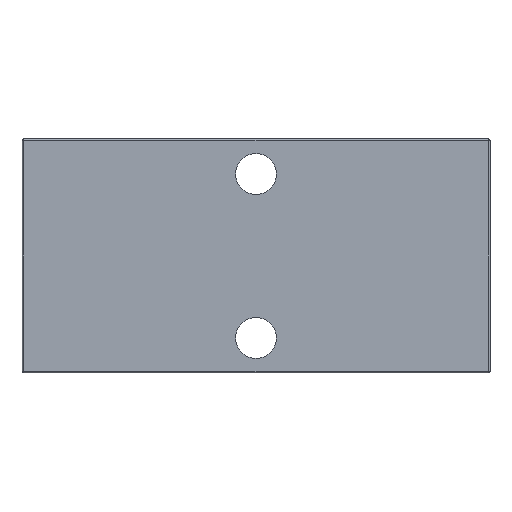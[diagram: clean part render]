
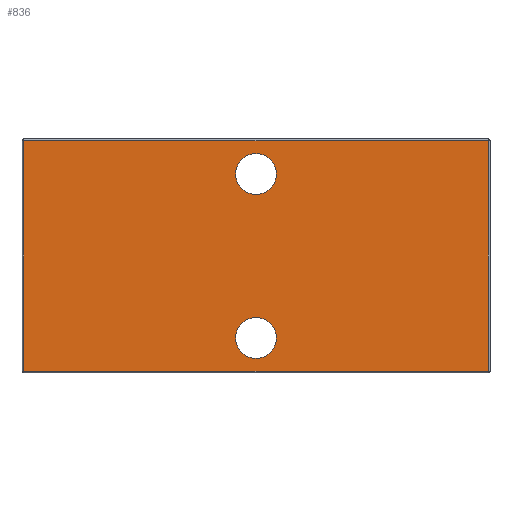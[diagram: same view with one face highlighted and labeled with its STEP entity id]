
A CAD part, front view. The second image highlights one B-rep face of the part: STEP entity #836.
In plain terms, the highlighted planar face has unit normal (0, -1, 0).
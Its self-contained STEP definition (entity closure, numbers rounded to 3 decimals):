
#43=FACE_BOUND('',#263,.T.);
#44=FACE_BOUND('',#264,.T.);
#54=PLANE('',#939);
#71=LINE('',#1366,#120);
#73=LINE('',#1369,#122);
#75=LINE('',#1372,#124);
#77=LINE('',#1375,#126);
#120=VECTOR('',#1099,10.);
#122=VECTOR('',#1103,10.);
#124=VECTOR('',#1107,10.);
#126=VECTOR('',#1111,10.);
#203=FACE_OUTER_BOUND('',#262,.T.);
#262=EDGE_LOOP('',(#657,#658,#659,#660));
#263=EDGE_LOOP('',(#661));
#264=EDGE_LOOP('',(#662));
#326=CIRCLE('',#940,2.625);
#327=CIRCLE('',#941,2.625);
#361=VERTEX_POINT('',#1287);
#364=VERTEX_POINT('',#1294);
#367=VERTEX_POINT('',#1301);
#373=VERTEX_POINT('',#1318);
#392=VERTEX_POINT('',#1399);
#393=VERTEX_POINT('',#1401);
#474=EDGE_CURVE('',#364,#373,#71,.T.);
#476=EDGE_CURVE('',#373,#367,#73,.T.);
#478=EDGE_CURVE('',#367,#361,#75,.T.);
#480=EDGE_CURVE('',#361,#364,#77,.T.);
#490=EDGE_CURVE('',#392,#392,#326,.T.);
#491=EDGE_CURVE('',#393,#393,#327,.T.);
#657=ORIENTED_EDGE('',*,*,#474,.F.);
#658=ORIENTED_EDGE('',*,*,#480,.F.);
#659=ORIENTED_EDGE('',*,*,#478,.F.);
#660=ORIENTED_EDGE('',*,*,#476,.F.);
#661=ORIENTED_EDGE('',*,*,#490,.T.);
#662=ORIENTED_EDGE('',*,*,#491,.T.);
#836=ADVANCED_FACE('',(#203,#43,#44),#54,.F.);
#939=AXIS2_PLACEMENT_3D('',#1398,#1139,#1140);
#940=AXIS2_PLACEMENT_3D('',#1400,#1141,#1142);
#941=AXIS2_PLACEMENT_3D('',#1402,#1143,#1144);
#1099=DIRECTION('',(0.,0.,1.));
#1103=DIRECTION('',(1.,0.,0.));
#1107=DIRECTION('',(0.,0.,-1.));
#1111=DIRECTION('',(-1.,0.,0.));
#1139=DIRECTION('center_axis',(0.,1.,0.));
#1140=DIRECTION('ref_axis',(0.,0.,1.));
#1141=DIRECTION('center_axis',(0.,1.,0.));
#1142=DIRECTION('ref_axis',(1.,0.,0.));
#1143=DIRECTION('center_axis',(0.,1.,0.));
#1144=DIRECTION('ref_axis',(1.,0.,0.));
#1287=CARTESIAN_POINT('',(29.8,-10.,-14.8));
#1294=CARTESIAN_POINT('',(-29.8,-10.,-14.8));
#1301=CARTESIAN_POINT('',(29.8,-10.,14.8));
#1318=CARTESIAN_POINT('',(-29.8,-10.,14.8));
#1366=CARTESIAN_POINT('',(-29.8,-10.,-7.5));
#1369=CARTESIAN_POINT('',(-15.,-10.,14.8));
#1372=CARTESIAN_POINT('',(29.8,-10.,7.5));
#1375=CARTESIAN_POINT('',(15.,-10.,-14.8));
#1398=CARTESIAN_POINT('Origin',(0.,-10.,0.));
#1399=CARTESIAN_POINT('',(-2.625,-10.,-10.5));
#1400=CARTESIAN_POINT('Origin',(0.,-10.,-10.5));
#1401=CARTESIAN_POINT('',(-2.625,-10.,10.5));
#1402=CARTESIAN_POINT('Origin',(0.,-10.,10.5));
